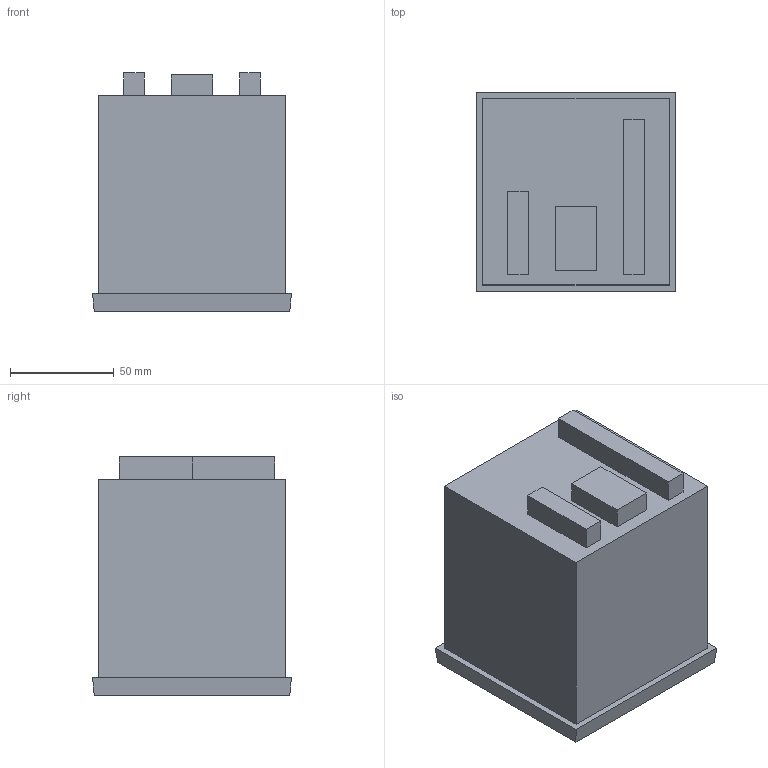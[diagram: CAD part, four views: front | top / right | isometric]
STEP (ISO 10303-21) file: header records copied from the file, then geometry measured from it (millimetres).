
FILE_DESCRIPTION((''),'2;1');
FILE_NAME('R:\Mekanisk design\HBPH\5. STEP files\HBPH-C1.stp','2018-07-10T13:29:50',('KC'),(''),'Autodesk Inventor 2013','Autodesk Inventor 2013','');
FILE_SCHEMA(('AUTOMOTIVE_DESIGN { 1 0 10303 214 1 1 1 1 }'));
Length unit declared in the file: millimetre
Products named in the file (1): HBPH-C1
Bounding box: 96 x 96 x 115 mm (x, y, z)
Volume: 160215.8 mm3; surface area: 108032.9 mm2
Topology: 1 solids, 2 shells, 1311 faces, 3489 edges, 2326 vertices
Faces by surface type: plane 905, bspline 218, cylinder 188
Full cylindrical faces by diameter (mm): 2 x4, 4 x9
Entity records: 42788 total; most frequent: CARTESIAN_POINT 9948, ORIENTED_EDGE 6952, DIRECTION 5604, EDGE_CURVE 3476, VECTOR 2664, LINE 2664, VERTEX_POINT 2326, AXIS2_PLACEMENT_3D 1470
